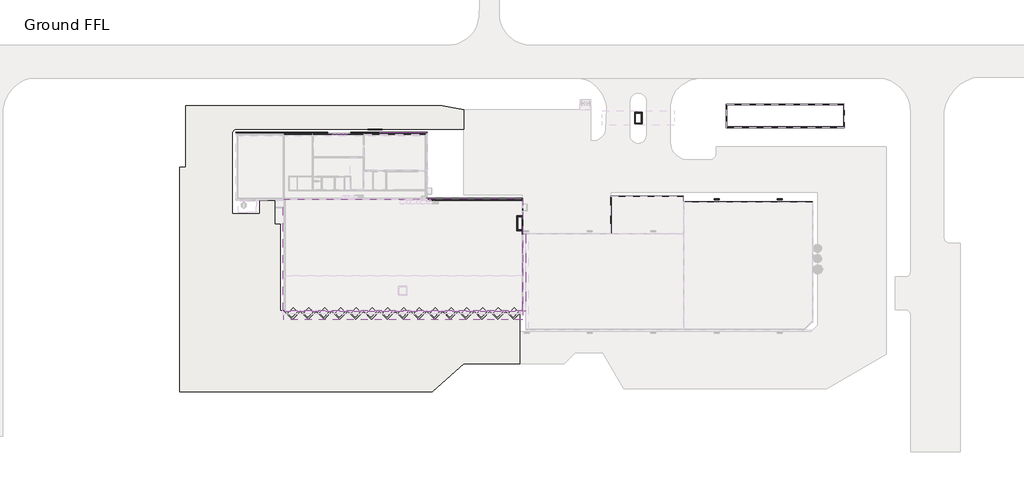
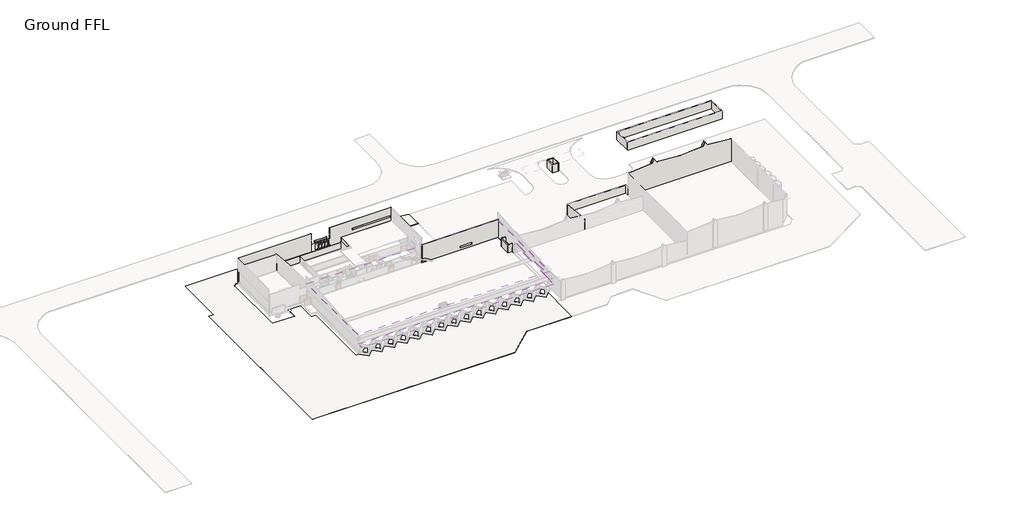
# One storey, part 5 of 7: 23 walls, 18 members, 6 plates, 3 roofs, 2 slabs, 1 door.
"""IFC4 building model written with IfcOpenShell, lengths in millimetres."""

from ifc_helpers import new_model, si_unit, point, frame, frame_2d, origin, place, context, project, spatial, polyline, circle_curve, trimmed, segment, composite_curve, outline, extrude, faceted_brep, transform, mapped, element, save
from components import m_single_flush_0813_x_2030mm_4a34e6f7, rectangular_mullion_50_x_150mm_0d2ae8be, rectangular_mullion_50_x_150mm_18613413, rectangular_mullion_50_x_150mm_3009440c, rectangular_mullion_50_x_150mm_8154ebc9, rectangular_mullion_50_x_150mm_1dcfd439, rectangular_mullion_50_x_150mm_17927dfe, rectangular_mullion_50_x_150mm_7ee202ef, rectangular_mullion_50_x_150mm_3a6771bd, system_panel_glazed_73dfcaf4, system_panel_glazed_c10e7662, system_panel_glazed_0650afbd, system_panel_glazed_fd84f461

model = new_model("IFC4")

# Units and contexts
model_context = context("Model", 3, world=origin())
ifc_project = project(units=[si_unit("LENGTHUNIT", "METRE", prefix="MILLI")], contexts=[model_context])

# Site, building, storey
site = spatial("IfcSite", under=ifc_project)
building = spatial("IfcBuilding", under=site)
storey = spatial("IfcBuildingStorey", under=building, Name="Ground FFL", Elevation=44170.0)

# Door
placement = place(None, origin())
m_single_flush_0813_x_2030mm_shape = m_single_flush_0813_x_2030mm_4a34e6f7(model_context)
element("IfcDoor", 1, ObjectType="M_Single-Flush : 813 x 2030mm", at=placement, inside=storey, context=model_context, shape_type="MappedRepresentation", body=[
    mapped(m_single_flush_0813_x_2030mm_shape, transform((-44649.0423298, 7861.4058517, 44170.0), x_axis=(0.0, -1.0, 0.0), y_axis=(1.0, 0.0, 0.0), z_axis=(0.0, 0.0, 1.0))),
])

# Members
rectangular_mullion_50_x_150mm_shape = rectangular_mullion_50_x_150mm_0d2ae8be(model_context)
element("IfcMember", 2, ObjectType="Rectangular Mullion : 50 x 150mm", at=placement, inside=storey, context=model_context, shape_type="MappedRepresentation", body=[
    mapped(rectangular_mullion_50_x_150mm_shape, transform((-112502.5092007, 36380.969902, 50970.0), x_axis=(0.0, 0.0, 1.0), y_axis=(0.0, 1.0, 0.0), z_axis=(-1.0, 0.0, 0.0))),
])
element("IfcMember", 3, ObjectType="Rectangular Mullion : 50 x 150mm", at=placement, inside=storey, context=model_context, shape_type="MappedRepresentation", body=[
    mapped(rectangular_mullion_50_x_150mm_shape, transform((-111072.6905728, 36380.969902, 48170.0), x_axis=(0.0, 0.0, -1.0), y_axis=(0.0, 1.0, 0.0), z_axis=(1.0, 0.0, 0.0))),
])
element("IfcMember", 4, ObjectType="Rectangular Mullion : 50 x 150mm", at=placement, inside=storey, context=model_context, shape_type="MappedRepresentation", body=[
    mapped(rectangular_mullion_50_x_150mm_shape, transform((-115562.1464558, 36380.969902, 48170.0), x_axis=(0.0, 0.0, -1.0), y_axis=(0.0, 1.0, 0.0), z_axis=(1.0, 0.0, 0.0))),
])
rectangular_mullion_50_x_150mm_2_shape = rectangular_mullion_50_x_150mm_18613413(model_context)
element("IfcMember", 5, ObjectType="Rectangular Mullion : 50 x 150mm", at=placement, inside=storey, context=model_context, shape_type="MappedRepresentation", body=[
    mapped(rectangular_mullion_50_x_150mm_2_shape, transform((-114007.3278282, 36380.969902, 50970.0), x_axis=(0.0, 0.0, 1.0), y_axis=(0.0, 1.0, 0.0), z_axis=(-1.0, 0.0, 0.0))),
])
element("IfcMember", 6, ObjectType="Rectangular Mullion : 50 x 150mm", at=placement, inside=storey, context=model_context, shape_type="MappedRepresentation", body=[
    mapped(rectangular_mullion_50_x_150mm_2_shape, transform((-115512.1464558, 36380.969902, 50970.0), x_axis=(0.0, 0.0, 1.0), y_axis=(0.0, 1.0, 0.0), z_axis=(-1.0, 0.0, 0.0))),
])
element("IfcMember", 7, ObjectType="Rectangular Mullion : 50 x 150mm", at=placement, inside=storey, context=model_context, shape_type="MappedRepresentation", body=[
    mapped(rectangular_mullion_50_x_150mm_2_shape, transform((-112552.5092007, 36380.969902, 48170.0), x_axis=(0.0, 0.0, -1.0), y_axis=(0.0, 1.0, 0.0), z_axis=(1.0, 0.0, 0.0))),
])
element("IfcMember", 8, ObjectType="Rectangular Mullion : 50 x 150mm", at=placement, inside=storey, context=model_context, shape_type="MappedRepresentation", body=[
    mapped(rectangular_mullion_50_x_150mm_2_shape, transform((-114057.3278282, 36380.969902, 48170.0), x_axis=(0.0, 0.0, -1.0), y_axis=(0.0, 1.0, 0.0), z_axis=(1.0, 0.0, 0.0))),
])
rectangular_mullion_50_x_150mm_3_shape = rectangular_mullion_50_x_150mm_3009440c(model_context)
element("IfcMember", 9, ObjectType="Rectangular Mullion : 50 x 150mm", at=placement, inside=storey, context=model_context, shape_type="MappedRepresentation", body=[
    mapped(rectangular_mullion_50_x_150mm_3_shape, transform((-112502.5092007, 36380.969902, 50390.0), x_axis=(0.0, 0.0, 1.0), y_axis=(0.0, 1.0, 0.0), z_axis=(-1.0, 0.0, 0.0))),
])
rectangular_mullion_50_x_150mm_4_shape = rectangular_mullion_50_x_150mm_8154ebc9(model_context)
element("IfcMember", 10, ObjectType="Rectangular Mullion : 50 x 150mm", at=placement, inside=storey, context=model_context, shape_type="MappedRepresentation", body=[
    mapped(rectangular_mullion_50_x_150mm_4_shape, transform((-114007.3278282, 36380.969902, 50390.0), x_axis=(0.0, 0.0, 1.0), y_axis=(0.0, 1.0, 0.0), z_axis=(-1.0, 0.0, 0.0))),
])
element("IfcMember", 11, ObjectType="Rectangular Mullion : 50 x 150mm", at=placement, inside=storey, context=model_context, shape_type="MappedRepresentation", body=[
    mapped(rectangular_mullion_50_x_150mm_4_shape, transform((-115512.1464558, 36380.969902, 50390.0), x_axis=(0.0, 0.0, 1.0), y_axis=(0.0, 1.0, 0.0), z_axis=(-1.0, 0.0, 0.0))),
])
rectangular_mullion_50_x_150mm_5_shape = rectangular_mullion_50_x_150mm_1dcfd439(model_context)
element("IfcMember", 12, ObjectType="Rectangular Mullion : 50 x 150mm", at=placement, inside=storey, context=model_context, shape_type="MappedRepresentation", body=[
    mapped(rectangular_mullion_50_x_150mm_5_shape, transform((-112527.5092007, 36380.969902, 48170.0), x_axis=(-1.0, 0.0, 0.0), y_axis=(0.0, 1.0, 0.0), z_axis=(0.0, 0.0, -1.0))),
])
element("IfcMember", 13, ObjectType="Rectangular Mullion : 50 x 150mm", at=placement, inside=storey, context=model_context, shape_type="MappedRepresentation", body=[
    mapped(rectangular_mullion_50_x_150mm_5_shape, transform((-114032.3278282, 36380.969902, 48170.0), x_axis=(-1.0, 0.0, 0.0), y_axis=(0.0, 1.0, 0.0), z_axis=(0.0, 0.0, -1.0))),
])
element("IfcMember", 14, ObjectType="Rectangular Mullion : 50 x 150mm", at=placement, inside=storey, context=model_context, shape_type="MappedRepresentation", body=[
    mapped(rectangular_mullion_50_x_150mm_5_shape, transform((-115537.1464558, 36380.969902, 48170.0), x_axis=(-1.0, 0.0, 0.0), y_axis=(0.0, 1.0, 0.0), z_axis=(0.0, 0.0, -1.0))),
])
rectangular_mullion_50_x_150mm_6_shape = rectangular_mullion_50_x_150mm_17927dfe(model_context)
element("IfcMember", 15, ObjectType="Rectangular Mullion : 50 x 150mm", at=placement, inside=storey, context=model_context, shape_type="MappedRepresentation", body=[
    mapped(rectangular_mullion_50_x_150mm_6_shape, transform((-112527.5092007, 36380.969902, 50390.0), x_axis=(-1.0, 0.0, 0.0), y_axis=(0.0, 1.0, 0.0), z_axis=(0.0, 0.0, -1.0))),
])
element("IfcMember", 16, ObjectType="Rectangular Mullion : 50 x 150mm", at=placement, inside=storey, context=model_context, shape_type="MappedRepresentation", body=[
    mapped(rectangular_mullion_50_x_150mm_6_shape, transform((-114032.3278282, 36380.969902, 50390.0), x_axis=(-1.0, 0.0, 0.0), y_axis=(0.0, 1.0, 0.0), z_axis=(0.0, 0.0, -1.0))),
])
element("IfcMember", 17, ObjectType="Rectangular Mullion : 50 x 150mm", at=placement, inside=storey, context=model_context, shape_type="MappedRepresentation", body=[
    mapped(rectangular_mullion_50_x_150mm_6_shape, transform((-115537.1464558, 36380.969902, 50390.0), x_axis=(-1.0, 0.0, 0.0), y_axis=(0.0, 1.0, 0.0), z_axis=(0.0, 0.0, -1.0))),
])
rectangular_mullion_50_x_150mm_7_shape = rectangular_mullion_50_x_150mm_7ee202ef(model_context)
element("IfcMember", 18, ObjectType="Rectangular Mullion : 50 x 150mm", at=placement, inside=storey, context=model_context, shape_type="MappedRepresentation", body=[
    mapped(rectangular_mullion_50_x_150mm_7_shape, transform((-111022.6905728, 36380.969902, 50970.0), x_axis=(1.0, 0.0, 0.0), y_axis=(0.0, 1.0, 0.0), z_axis=(0.0, 0.0, 1.0))),
])
rectangular_mullion_50_x_150mm_8_shape = rectangular_mullion_50_x_150mm_3a6771bd(model_context)
element("IfcMember", 19, ObjectType="Rectangular Mullion : 50 x 150mm", at=placement, inside=storey, context=model_context, shape_type="MappedRepresentation", body=[
    mapped(rectangular_mullion_50_x_150mm_8_shape, transform((-111022.6905728, 36380.969902, 50390.0), x_axis=(1.0, 0.0, 0.0), y_axis=(0.0, 1.0, 0.0), z_axis=(0.0, 0.0, 1.0))),
])

# Plates
system_panel_glazed_shape = system_panel_glazed_73dfcaf4(model_context)
element("IfcPlate", 20, ObjectType="System Panel : Glazed", at=placement, inside=storey, context=model_context, shape_type="MappedRepresentation", body=[
    mapped(system_panel_glazed_shape, transform((-111787.5998867, 36380.969902, 48220.0), x_axis=(-1.0, 0.0, 0.0), y_axis=(0.0, -1.0, 0.0), z_axis=(0.0, 0.0, 1.0))),
])
system_panel_glazed_2_shape = system_panel_glazed_c10e7662(model_context)
element("IfcPlate", 21, ObjectType="System Panel : Glazed", at=placement, inside=storey, context=model_context, shape_type="MappedRepresentation", body=[
    mapped(system_panel_glazed_2_shape, transform((-113279.9185144, 36380.969902, 48220.0), x_axis=(-1.0, 0.0, 0.0), y_axis=(0.0, -1.0, 0.0), z_axis=(0.0, 0.0, 1.0))),
])
element("IfcPlate", 22, ObjectType="System Panel : Glazed", at=placement, inside=storey, context=model_context, shape_type="MappedRepresentation", body=[
    mapped(system_panel_glazed_2_shape, transform((-114784.737142, 36380.969902, 48220.0), x_axis=(-1.0, 0.0, 0.0), y_axis=(0.0, -1.0, 0.0), z_axis=(0.0, 0.0, 1.0))),
])
system_panel_glazed_3_shape = system_panel_glazed_0650afbd(model_context)
element("IfcPlate", 23, ObjectType="System Panel : Glazed", at=placement, inside=storey, context=model_context, shape_type="MappedRepresentation", body=[
    mapped(system_panel_glazed_3_shape, transform((-111787.5998867, 36380.969902, 50415.0), x_axis=(-1.0, 0.0, 0.0), y_axis=(0.0, -1.0, 0.0), z_axis=(0.0, 0.0, 1.0))),
])
system_panel_glazed_4_shape = system_panel_glazed_fd84f461(model_context)
element("IfcPlate", 24, ObjectType="System Panel : Glazed", at=placement, inside=storey, context=model_context, shape_type="MappedRepresentation", body=[
    mapped(system_panel_glazed_4_shape, transform((-113279.9185144, 36380.969902, 50415.0), x_axis=(-1.0, 0.0, 0.0), y_axis=(0.0, -1.0, 0.0), z_axis=(0.0, 0.0, 1.0))),
])
element("IfcPlate", 25, ObjectType="System Panel : Glazed", at=placement, inside=storey, context=model_context, shape_type="MappedRepresentation", body=[
    mapped(system_panel_glazed_4_shape, transform((-114784.737142, 36380.969902, 50415.0), x_axis=(-1.0, 0.0, 0.0), y_axis=(0.0, -1.0, 0.0), z_axis=(0.0, 0.0, 1.0))),
])

# Roofs
element("IfcRoof", 26, ObjectType="Isopanel 100", at=placement, inside=storey, context=model_context, shape_type="SweptSolid", body=[
    extrude(outline(polyline([(-33901.740321, 48294.4727997), (-30641.740321, 48465.3221602), (-30641.740321, 48365.1849256), (-33901.740321, 48194.3355651), (-33901.740321, 48294.4727997)])), frame((-135300.5917799, 0.0, 0.0), z_axis=(1.0, 0.0, 0.0), x_axis=(0.0, 1.0, 0.0)), (0.0, 0.0, 1.0), 90551.5494501),
])
element("IfcRoof", 27, ObjectType="50", at=placement, inside=storey, context=model_context, shape_type="SweptSolid", body=[
    extrude(outline(polyline([(-30621.740321, 48650.7727047), (-15971.5524704, 49932.4980602), (-1321.3646197, 48650.7727047), (-1321.3646197, 48600.5817128), (-15971.5524704, 49882.3070683), (-30621.740321, 48600.5817128), (-30621.740321, 48650.7727047)])), frame((-44599.0423298, 0.0, 0.0), z_axis=(1.0, 0.0, 0.0), x_axis=(0.0, 1.0, 0.0)), (0.0, 0.0, 1.0), 1086.5070164),
])
element("IfcRoof", 28, ObjectType="50", at=placement, inside=storey, context=model_context, shape_type="Brep", body=[
    faceted_brep([(-80781.5917799, 12123.5196318, 56358.2824731), (-44749.0423298, 12123.5196318, 56358.2824731), (-44749.0423298, -30547.626541, 52625.0409233), (-135438.5917799, -30547.626541, 52625.0409233), (-135438.5917799, 11785.5196318, 56328.7113048), (-80781.5917799, 11785.5196318, 56328.7113048), (-44749.0423298, 12123.5196318, 56408.4734649), (-80781.5917799, 12123.5196318, 56408.4734649), (-80781.5917799, 11785.5196318, 56378.9022967), (-135438.5917799, 11785.5196318, 56378.9022967), (-135438.5917799, -30547.626541, 52675.2319152), (-44749.0423298, -30547.626541, 52675.2319152)], [[[0, 1, 2, 3, 4, 5]], [[6, 7, 8, 9, 10, 11]], [[2, 11, 10, 3]], [[7, 6, 1, 0]], [[6, 11, 2, 1]], [[10, 9, 4, 3]], [[8, 7, 0, 5]], [[9, 8, 5, 4]]]),
])

# Slabs
element("IfcSlab", 29, ObjectType="tar", at=placement, inside=storey, context=model_context, shape_type="SweptSolid", body=[
    extrude(outline(composite_curve([segment(polyline([(-172400.4088827, 23796.909674), (-172400.4088827, 47266.2777512), (-75143.3700908, 47266.2777512), (-67100.5917799, 45651.9991708), (-67100.5917799, 38266.2777512), (-153558.3515083, 38266.2777512)]), True, "CONTINUOUS"), segment(trimmed(circle_curve(frame_2d((-152954.5809995, 36521.0091802)), 1846.7542371), [point((-153558.3515083, 38266.2777512))], [point((-154800.5917799, 36573.4058517))], True, "CARTESIAN"), True, "CONTINUOUS"), segment(polyline([(-154800.5917799, 36573.4058517), (-154800.5917799, 6248.2777512), (-144258.459765, 6248.2777512), (-144258.459765, 11448.2777512), (-138445.7798584, 11448.2777512), (-138445.7798584, 2475.2225353), (-136500.5917799, 2475.2225353), (-136500.5917799, -30556.740321), (-135043.8019318, -30556.740321), (-131902.6082972, -33652.2497332), (-128931.6842467, -30681.6911235), (-125917.2850165, -33652.2497332), (-122946.360966, -30681.6911235), (-119931.9617358, -33652.2497332), (-116961.0376853, -30681.6911235), (-113946.6384551, -33652.2497332), (-110975.7144046, -30681.6911235), (-107961.3151745, -33652.2497332), (-104990.391124, -30681.6911235), (-101975.9918938, -33652.2497332), (-99005.0678433, -30681.6911235), (-95990.6686131, -33652.2497332), (-93019.7445626, -30681.6911235), (-90005.3453324, -33652.2497332), (-87034.4212819, -30681.6911235), (-84020.0220517, -33652.2497332), (-81049.0980012, -30681.6911235), (-78034.6987711, -33652.2497332), (-75063.7747206, -30681.6911235), (-72049.3754904, -33652.2497332), (-69078.4514399, -30681.6911235), (-66064.0522097, -33652.2497332), (-63093.1281592, -30681.6911235), (-60078.728929, -33652.2497332), (-57107.8048785, -30681.6911235), (-54093.4056484, -33652.2497332), (-51100.5591708, -30659.7686967), (-48108.1107414, -33652.5825632), (-45845.7422682, -31390.4903361), (-45845.7422682, -50670.3268009), (-67045.7856046, -50670.3268009), (-78993.9393124, -61246.9875007), (-174738.4088827, -61246.9875007), (-174738.4088827, 23796.909674), (-172400.4088827, 23796.909674)]), True, "CONTINUOUS")], self_intersect=False)), frame((0.0, 0.0, 42660.0), z_axis=(0.0, 0.0, 1.0), x_axis=(1.0, 0.0, 0.0)), (0.0, 0.0, 1.0), 150.0),
])
element("IfcSlab", 30, ObjectType="Counter", at=placement, inside=storey, context=model_context, shape_type="SweptSolid", body=[
    extrude(outline(polyline([(-130132.6943152, -30967.337971), (-132311.3168194, -33145.9604752), (-133856.3778478, -31600.8994468), (-131677.7553436, -29422.2769426), (-130132.6943152, -30967.337971)])), frame((0.0, 0.0, 44120.0), z_axis=(0.0, 0.0, 1.0), x_axis=(1.0, 0.0, 0.0)), (0.0, 0.0, 1.0), 50.0),
    extrude(outline(polyline([(-124147.3710345, -30967.337971), (-126325.9935387, -33145.9604752), (-127871.0545671, -31600.8994468), (-125692.4320629, -29422.2769426), (-124147.3710345, -30967.337971)])), frame((0.0, 0.0, 44120.0), z_axis=(0.0, 0.0, 1.0), x_axis=(1.0, 0.0, 0.0)), (0.0, 0.0, 1.0), 50.0),
    extrude(outline(polyline([(-118162.0477538, -30967.337971), (-120340.670258, -33145.9604752), (-121885.7312865, -31600.8994468), (-119707.1087823, -29422.2769426), (-118162.0477538, -30967.337971)])), frame((0.0, 0.0, 44120.0), z_axis=(0.0, 0.0, 1.0), x_axis=(1.0, 0.0, 0.0)), (0.0, 0.0, 1.0), 50.0),
    extrude(outline(polyline([(-112176.7244731, -30967.337971), (-114355.3469773, -33145.9604752), (-115900.4080058, -31600.8994468), (-113721.7855016, -29422.2769426), (-112176.7244731, -30967.337971)])), frame((0.0, 0.0, 44120.0), z_axis=(0.0, 0.0, 1.0), x_axis=(1.0, 0.0, 0.0)), (0.0, 0.0, 1.0), 50.0),
    extrude(outline(polyline([(-106191.4011925, -30967.337971), (-108370.0236967, -33145.9604752), (-109915.0847251, -31600.8994468), (-107736.4622209, -29422.2769426), (-106191.4011925, -30967.337971)])), frame((0.0, 0.0, 44120.0), z_axis=(0.0, 0.0, 1.0), x_axis=(1.0, 0.0, 0.0)), (0.0, 0.0, 1.0), 50.0),
    extrude(outline(polyline([(-100206.0779118, -30967.337971), (-102384.700416, -33145.9604752), (-103929.7614444, -31600.8994468), (-101751.1389402, -29422.2769426), (-100206.0779118, -30967.337971)])), frame((0.0, 0.0, 44120.0), z_axis=(0.0, 0.0, 1.0), x_axis=(1.0, 0.0, 0.0)), (0.0, 0.0, 1.0), 50.0),
    extrude(outline(polyline([(-94220.7546311, -30967.337971), (-96399.3771353, -33145.9604752), (-97944.4381638, -31600.8994468), (-95765.8156596, -29422.2769426), (-94220.7546311, -30967.337971)])), frame((0.0, 0.0, 44120.0), z_axis=(0.0, 0.0, 1.0), x_axis=(1.0, 0.0, 0.0)), (0.0, 0.0, 1.0), 50.0),
    extrude(outline(polyline([(-88235.4313504, -30967.337971), (-90414.0538546, -33145.9604752), (-91959.1148831, -31600.8994468), (-89780.4923789, -29422.2769426), (-88235.4313504, -30967.337971)])), frame((0.0, 0.0, 44120.0), z_axis=(0.0, 0.0, 1.0), x_axis=(1.0, 0.0, 0.0)), (0.0, 0.0, 1.0), 50.0),
    extrude(outline(polyline([(-82250.1080697, -30967.337971), (-84428.7305739, -33145.9604752), (-85973.7916024, -31600.8994468), (-83795.1690982, -29422.2769426), (-82250.1080697, -30967.337971)])), frame((0.0, 0.0, 44120.0), z_axis=(0.0, 0.0, 1.0), x_axis=(1.0, 0.0, 0.0)), (0.0, 0.0, 1.0), 50.0),
    extrude(outline(polyline([(-76264.7847891, -30967.337971), (-78443.4072933, -33145.9604752), (-79988.4683217, -31600.8994468), (-77809.8458175, -29422.2769426), (-76264.7847891, -30967.337971)])), frame((0.0, 0.0, 44120.0), z_axis=(0.0, 0.0, 1.0), x_axis=(1.0, 0.0, 0.0)), (0.0, 0.0, 1.0), 50.0),
    extrude(outline(polyline([(-70279.4615084, -30967.337971), (-72458.0840126, -33145.9604752), (-74003.145041, -31600.8994468), (-71824.5225368, -29422.2769426), (-70279.4615084, -30967.337971)])), frame((0.0, 0.0, 44120.0), z_axis=(0.0, 0.0, 1.0), x_axis=(1.0, 0.0, 0.0)), (0.0, 0.0, 1.0), 50.0),
    extrude(outline(polyline([(-64294.1382277, -30967.337971), (-66472.7607319, -33145.9604752), (-68017.8217604, -31600.8994468), (-65839.1992562, -29422.2769426), (-64294.1382277, -30967.337971)])), frame((0.0, 0.0, 44120.0), z_axis=(0.0, 0.0, 1.0), x_axis=(1.0, 0.0, 0.0)), (0.0, 0.0, 1.0), 50.0),
    extrude(outline(polyline([(-58308.814947, -30967.337971), (-60487.4374512, -33145.9604752), (-62032.4984797, -31600.8994468), (-59853.8759755, -29422.2769426), (-58308.814947, -30967.337971)])), frame((0.0, 0.0, 44120.0), z_axis=(0.0, 0.0, 1.0), x_axis=(1.0, 0.0, 0.0)), (0.0, 0.0, 1.0), 50.0),
    extrude(outline(polyline([(-52323.4916664, -30967.337971), (-54502.1141705, -33145.9604752), (-56047.175199, -31600.8994468), (-53868.5526948, -29422.2769426), (-52323.4916664, -30967.337971)])), frame((0.0, 0.0, 44120.0), z_axis=(0.0, 0.0, 1.0), x_axis=(1.0, 0.0, 0.0)), (0.0, 0.0, 1.0), 50.0),
    extrude(outline(polyline([(-46338.1683857, -30967.337971), (-48516.7908899, -33145.9604752), (-50061.8519183, -31600.8994468), (-47883.2294141, -29422.2769426), (-46338.1683857, -30967.337971)])), frame((0.0, 0.0, 44120.0), z_axis=(0.0, 0.0, 1.0), x_axis=(1.0, 0.0, 0.0)), (0.0, 0.0, 1.0), 50.0),
])

# Walls
element("IfcWall", 31, ObjectType="300 bund wall", at=placement, inside=storey, context=model_context, shape_type="Brep", body=[
    faceted_brep([(-44899.0423298, 12086.2777512, 42669.4970536), (-44899.0423298, -1493.7222488, 42669.4970536), (-44899.0423298, -1493.7222488, 44170.0), (-44899.0423298, -1493.7222488, 44181.9525163), (-44899.0423298, -183.3646197, 44181.9525163), (-44899.0423298, -183.3646197, 46190.0), (-44899.0423298, -98.3646197, 46190.0), (-44899.0423298, 131.6353803, 46190.0), (-44899.0423298, 5436.2777512, 46190.0), (-44899.0423298, 5436.2777512, 44181.9525163), (-44899.0423298, 7454.9058517, 44181.9525163), (-44899.0423298, 7454.9058517, 44170.0), (-44899.0423298, 8267.9058517, 44170.0), (-44899.0423298, 8267.9058517, 44181.9525163), (-44899.0423298, 12086.2777512, 44181.9525163), (-44899.0423298, 12086.2777512, 44170.0), (-44899.0423298, 12086.2777512, 42670.0), (-44899.0423298, 2031.6353803, 42810.0), (-44899.0423298, 2731.6353803, 42810.0), (-44899.0423298, 2731.6353803, 44840.0), (-44899.0423298, 2031.6353803, 44840.0), (-44599.0423298, -1493.7222488, 42669.4970536), (-44599.0423298, 12086.2777512, 42669.4970536), (-44599.0423298, 12086.2777512, 44181.9525163), (-44599.0423298, 8267.9058517, 44181.9525163), (-44599.0423298, 8267.9058517, 44170.0), (-44599.0423298, 7454.9058517, 44170.0), (-44599.0423298, 7454.9058517, 44181.9525163), (-44599.0423298, 5436.2777512, 44181.9525163), (-44599.0423298, 5436.2777512, 46190.0), (-44599.0423298, -183.3646197, 46190.0), (-44599.0423298, -183.3646197, 44181.9525163), (-44599.0423298, -1493.7222488, 44181.9525163), (-44599.0423298, -1493.7222488, 44170.0), (-44599.0423298, 2731.6353803, 42810.0), (-44599.0423298, 2031.6353803, 42810.0), (-44599.0423298, 2031.6353803, 44840.0), (-44599.0423298, 2731.6353803, 44840.0), (-44699.0423298, -183.3646197, 46190.0), (-44699.0423298, 5436.2777512, 46190.0), (-44699.0423298, 5436.2777512, 44181.9525163)], [[[0, 1, 2, 3, 4, 5, 6, 7, 8, 9, 10, 11, 12, 13, 14, 15, 16], [17, 18, 19, 20]], [[21, 22, 23, 24, 25, 26, 27, 28, 29, 30, 31, 32, 33], [34, 35, 36, 37]], [[0, 16, 15, 14, 23, 22]], [[25, 12, 11, 26]], [[26, 11, 10, 27]], [[12, 25, 24, 13]], [[34, 18, 17, 35]], [[35, 17, 20, 36]], [[18, 34, 37, 19]], [[1, 0, 22, 21]], [[3, 2, 1, 21, 33, 32]], [[4, 3, 32, 31]], [[5, 4, 31, 30, 38]], [[8, 7, 6, 5, 38, 30, 29, 39]], [[23, 14, 13, 24]], [[10, 9, 40, 28, 27]], [[19, 37, 36, 20]], [[9, 8, 39, 29, 28, 40]]]),
])
element("IfcWall", 32, ObjectType="300 bund wall", at=placement, inside=storey, context=model_context, shape_type="SweptSolid", body=[
    extrude(outline(polyline([(-80950.5917799, 12086.2777512), (-44899.0423298, 12086.2777512), (-44899.0423298, 11786.2777512), (-80950.5917799, 11786.2777512), (-80950.5917799, 12086.2777512)])), frame((0.0, 0.0, 42670.0), z_axis=(0.0, 0.0, 1.0), x_axis=(1.0, 0.0, 0.0)), (0.0, 0.0, 1.0), 1500.0),
])
element("IfcWall", 33, ObjectType="Isopanel", at=placement, inside=storey, context=model_context, shape_type="Brep", body=[
    faceted_brep([(-80889.0423298, 11388.2777512, 44170.0), (-44699.0423298, 11388.2777512, 44170.0), (-44699.0423298, 11388.2777512, 53270.0), (-44637.0423298, 11388.2777512, 53270.0), (-44637.0423298, 11388.2777512, 53310.0), (-80889.0423298, 11388.2777512, 53310.0), (-62740.5917799, 11388.2777512, 46170.0), (-57320.5917799, 11388.2777512, 46170.0), (-57320.5917799, 11388.2777512, 45270.0), (-62740.5917799, 11388.2777512, 45270.0), (-80889.0423298, 11488.2777512, 44170.0), (-80889.0423298, 11488.2777512, 53310.0), (-44637.0423298, 11488.2777512, 53310.0), (-44637.0423298, 11488.2777512, 53270.0), (-44699.0423298, 11488.2777512, 53270.0), (-44699.0423298, 11488.2777512, 44181.9525163), (-44699.0423298, 11488.2777512, 44170.0), (-62740.5917799, 11488.2777512, 46170.0), (-62740.5917799, 11488.2777512, 45270.0), (-57320.5917799, 11488.2777512, 45270.0), (-57320.5917799, 11488.2777512, 46170.0)], [[[0, 1, 2, 3, 4, 5], [6, 7, 8, 9]], [[10, 11, 12, 13, 14, 15, 16], [17, 18, 19, 20]], [[1, 0, 10, 16]], [[5, 4, 12, 11]], [[0, 5, 11, 10]], [[7, 6, 17, 20]], [[8, 7, 20, 19]], [[9, 8, 19, 18]], [[6, 9, 18, 17]], [[13, 3, 2, 14]], [[1, 16, 15, 14, 2]], [[4, 3, 13, 12]]]),
])
element("IfcWall", 34, ObjectType="Isopanel", at=placement, inside=storey, context=model_context, shape_type="Brep", body=[
    faceted_brep([(-81347.9372768, 36355.969902, 50120.0), (-104751.7924744, 36355.969902, 50120.0), (-104751.7924744, 36355.969902, 47720.0), (-135348.6902477, 36355.969902, 47720.0), (-135348.6902477, 36355.969902, 44170.0), (-135347.9372768, 36355.969902, 44170.0), (-135247.9372768, 36355.969902, 44170.0), (-124347.9372768, 36355.969902, 44170.0), (-124247.9372768, 36355.969902, 44170.0), (-104947.9372768, 36355.969902, 44170.0), (-104847.9372768, 36355.969902, 44170.0), (-81347.9372768, 36355.969902, 44170.0), (-81347.9372768, 36355.969902, 44670.0), (-81347.9372768, 36455.969902, 50120.0), (-81347.9372768, 36455.969902, 44170.0), (-135348.6902477, 36455.969902, 44170.0), (-135348.6902477, 36455.969902, 47720.0), (-135247.9372768, 36455.969902, 47720.0), (-104751.7924744, 36455.969902, 47720.0), (-104751.7924744, 36455.969902, 50120.0), (-135348.6902477, 36405.969902, 47720.0), (-135348.6902477, 36405.969902, 44170.0)], [[[0, 1, 2, 3, 4, 5, 6, 7, 8, 9, 10, 11, 12]], [[13, 14, 15, 16, 17, 18, 19]], [[1, 0, 13, 19]], [[2, 1, 19, 18]], [[3, 2, 18, 17, 16, 20]], [[11, 10, 9, 8, 7, 6, 5, 4, 21, 15, 14]], [[4, 3, 20, 16, 15, 21]], [[0, 12, 11, 14, 13]]]),
])
element("IfcWall", 35, ObjectType="Cladding 2", at=placement, inside=storey, context=model_context, shape_type="SweptSolid", body=[
    extrude(outline(polyline([(10832.6738606, 44170.0), (10832.6738606, 48398.4928881), (12870.6738606, 48220.1909919), (12870.6738606, 44170.0), (10832.6738606, 44170.0)])), frame((16410.8578757, 0.0, 0.0), z_axis=(1.0, 0.0, 0.0), x_axis=(0.0, 1.0, 0.0)), (0.0, 0.0, 1.0), 38.0),
])
element("IfcWall", 36, ObjectType="Cladding 2", at=placement, inside=storey, context=model_context, shape_type="Brep", body=[
    faceted_brep([(16410.8578757, 12870.6738606, 42669.4970536), (-11218.0540881, 12870.6738606, 42669.4970536), (-11218.0540881, 12870.6738606, 48220.1909919), (16410.8578757, 12870.6738606, 48220.1909919), (16410.8578757, 12870.6738606, 44170.0), (16410.8578757, 12832.6738606, 42669.4970536), (16410.8578757, 12832.6738606, 48220.1909919), (-11218.0540881, 12832.6738606, 48220.1909919), (-11218.0540881, 12832.6738606, 42669.4970536)], [[[0, 1, 2, 3, 4]], [[5, 6, 7, 8]], [[0, 4, 3, 6, 5]], [[2, 1, 8, 7]], [[1, 0, 5, 8]], [[3, 2, 7, 6]]]),
])
element("IfcWall", 37, ObjectType="Cladding 2", at=placement, inside=storey, context=model_context, shape_type="Brep", body=[
    faceted_brep([(-11218.0540881, 12832.6738606, 41553.4728544), (-11218.0540881, -1321.3646197, 41553.4728544), (-11218.0540881, -1321.3646197, 49461.8334712), (-11218.0540881, 12832.6738606, 48223.5155611), (-11218.0540881, 12832.6738606, 48220.1909919), (-11218.0540881, 12832.6738606, 42669.4970536), (-11180.0540881, 12832.6738606, 41553.4728544), (-11180.0540881, 12832.6738606, 48223.5155611), (-11180.0540881, -1321.3646197, 49461.8334712), (-11180.0540881, -1321.3646197, 41553.4728544)], [[[0, 1, 2, 3, 4, 5]], [[6, 7, 8, 9]], [[0, 5, 4, 3, 7, 6]], [[2, 1, 9, 8]], [[1, 0, 6, 9]], [[3, 2, 8, 7]]]),
])
element("IfcWall", 38, ObjectType="Cladding 3", at=placement, inside=storey, context=model_context, shape_type="Brep", body=[
    faceted_brep([(-80762.5917799, 37027.0854127, 56320.0), (-109917.8719448, 37027.0854127, 56320.0), (-109917.8719448, 37027.0854127, 51029.3579685), (-109967.8719448, 37027.0854127, 51029.3579685), (-109967.8719448, 37027.0854127, 48170.0), (-109917.8719448, 37027.0854127, 48170.0), (-109917.8719448, 37027.0854127, 44170.0), (-80800.5917799, 37027.0854127, 44170.0), (-80762.5917799, 37027.0854127, 44170.0), (-99086.8066426, 37027.0854127, 52370.0), (-81298.6902477, 37027.0854127, 52370.0), (-81298.6902477, 37027.0854127, 51570.0), (-99086.8066426, 37027.0854127, 51570.0), (-80762.5917799, 37065.0854127, 56320.0), (-80762.5917799, 37065.0854127, 44170.0), (-109917.8719448, 37065.0854127, 44170.0), (-109917.8719448, 37065.0854127, 48170.0), (-109967.8719448, 37065.0854127, 48170.0), (-109967.8719448, 37065.0854127, 51029.3579685), (-109917.8719448, 37065.0854127, 51029.3579685), (-109917.8719448, 37065.0854127, 56320.0), (-99086.8066426, 37065.0854127, 52370.0), (-99086.8066426, 37065.0854127, 51570.0), (-81298.6902477, 37065.0854127, 51570.0), (-81298.6902477, 37065.0854127, 52370.0), (-109917.8719448, 37028.2777512, 48170.0), (-109917.8719448, 37028.2777512, 44170.0), (-109917.8719448, 37028.2777512, 51029.3579685), (-109967.8719448, 37028.2777512, 51029.3579685), (-109967.8719448, 37028.2777512, 48170.0)], [[[0, 1, 2, 3, 4, 5, 6, 7, 8], [9, 10, 11, 12]], [[13, 14, 15, 16, 17, 18, 19, 20], [21, 22, 23, 24]], [[0, 8, 14, 13]], [[1, 0, 13, 20]], [[12, 11, 23, 22]], [[9, 12, 22, 21]], [[10, 9, 21, 24]], [[11, 10, 24, 23]], [[6, 5, 25, 16, 15, 26]], [[2, 1, 20, 19, 27]], [[4, 3, 28, 18, 17, 29]], [[8, 7, 6, 26, 15, 14]], [[4, 29, 17, 16, 25, 5]], [[2, 27, 19, 18, 28, 3]]]),
    faceted_brep([(-153476.6902477, 37027.0854127, 44170.0), (-153438.6902477, 37027.0854127, 44170.0), (-118610.400716, 37027.0854127, 44170.0), (-118610.400716, 37027.0854127, 56320.0), (-153476.6902477, 37027.0854127, 56320.0), (-153476.6902477, 37065.0854127, 44170.0), (-153476.6902477, 37065.0854127, 56320.0), (-118610.400716, 37065.0854127, 56320.0), (-118610.400716, 37065.0854127, 44170.0), (-118610.400716, 37028.2777512, 44170.0)], [[[0, 1, 2, 3, 4]], [[5, 6, 7, 8]], [[0, 4, 6, 5]], [[2, 1, 0, 5, 8, 9]], [[3, 2, 9, 8, 7]], [[4, 3, 7, 6]]]),
])
element("IfcWall", 39, ObjectType="Cladding dark", at=placement, inside=storey, context=model_context, shape_type="Brep", body=[
    faceted_brep([(65219.3004542, 10832.6738606, 44170.0), (16448.8578757, 10832.6738606, 44170.0), (16410.8578757, 10832.6738606, 44170.0), (16410.8578757, 10832.6738606, 48398.4928881), (16410.8578757, 10832.6738606, 55437.2013472), (27847.5391285, 10832.6738606, 56437.7813052), (28797.5391285, 10832.6738606, 58083.2295724), (29747.5391285, 10832.6738606, 56437.7813052), (40805.3002773, 10832.6738606, 55470.3525607), (51863.0614262, 10832.6738606, 56437.7813052), (52813.0614262, 10832.6738606, 58083.2295724), (53763.0614262, 10832.6738606, 56437.7813052), (65219.3004542, 10832.6738606, 55435.4902636), (65219.3004542, 10794.6738606, 44170.0), (65219.3004542, 10794.6738606, 55435.4902636), (53763.0614262, 10794.6738606, 56437.7813052), (52813.0614262, 10794.6738606, 58083.2295724), (51863.0614262, 10794.6738606, 56437.7813052), (40805.3002773, 10794.6738606, 55470.3525607), (29747.5391285, 10794.6738606, 56437.7813052), (28797.5391285, 10794.6738606, 58083.2295724), (27847.5391285, 10794.6738606, 56437.7813052), (16410.8578757, 10794.6738606, 55437.2013472), (16410.8578757, 10794.6738606, 44170.0), (16448.8578757, 10794.6738606, 44170.0)], [[[0, 1, 2, 3, 4, 5, 6, 7, 8, 9, 10, 11, 12]], [[13, 14, 15, 16, 17, 18, 19, 20, 21, 22, 23, 24]], [[2, 1, 0, 13, 24, 23]], [[0, 12, 14, 13]], [[5, 4, 22, 21]], [[6, 5, 21, 20]], [[7, 6, 20, 19]], [[8, 7, 19, 18]], [[9, 8, 18, 17]], [[10, 9, 17, 16]], [[11, 10, 16, 15]], [[12, 11, 15, 14]], [[2, 23, 22, 4, 3]]]),
])
element("IfcWall", 40, ObjectType="Orange", at=placement, inside=storey, context=model_context, shape_type="SweptSolid", body=[
    extrude(outline(polyline([(43054.2001228, -97830.3719448), (44085.2546296, -97830.3719448), (44747.5, -98897.8719448), (44747.5, -99827.8719448), (46255.0, -102257.8719448), (46255.0, -103187.8719448), (47762.5, -105617.8719448), (47762.5, -106547.8719448), (49270.0, -108977.8719448), (49270.0, -111117.8719448), (48170.0, -111117.8719448), (48170.0, -108866.7359259), (46712.5, -106517.3329408), (46712.5, -105587.3329408), (45205.0, -103157.3329408), (45205.0, -102227.3329408), (43697.5, -99797.3329408), (43697.5, -98867.3329408), (43054.2001228, -97830.3719448)])), frame((0.0, 38190.2777512, 0.0), z_axis=(0.0, 1.0, 0.0), x_axis=(0.0, 0.0, 1.0)), (0.0, 0.0, 1.0), 38.0),
])
element("IfcWall", 41, ObjectType="Orange wide", at=placement, inside=storey, context=model_context, shape_type="SweptSolid", body=[
    extrude(outline(polyline([(58083.2295724, 28797.5391285), (56437.7813052, 27847.5391285), (44170.0, 27847.5391285), (44170.0, 29747.5391285), (56437.7813052, 29747.5391285), (58083.2295724, 28797.5391285)])), frame((0.0, 11632.6738606, 0.0), z_axis=(0.0, 1.0, 0.0), x_axis=(0.0, 0.0, 1.0)), (0.0, 0.0, 1.0), 300.0),
    extrude(outline(polyline([(44170.0, 51863.0614262), (44170.0, 53763.0614262), (56437.7813052, 53763.0614262), (58083.2295724, 52813.0614262), (56437.7813052, 51863.0614262), (44170.0, 51863.0614262)])), frame((0.0, 11632.6738606, 0.0), z_axis=(0.0, 1.0, 0.0), x_axis=(0.0, 0.0, 1.0)), (0.0, 0.0, 1.0), 300.0),
])
element("IfcWall", 42, ObjectType="Translucent sheeting", at=placement, inside=storey, context=model_context, shape_type="Brep", body=[
    faceted_brep([(-81298.6902477, 37065.0854127, 51570.0), (-99086.8066426, 37065.0854127, 51570.0), (-99086.8066426, 37065.0854127, 52370.0), (-81298.6902477, 37065.0854127, 52370.0), (-81298.6902477, 37027.0854127, 51570.0), (-81298.6902477, 37027.0854127, 52370.0), (-99086.8066426, 37027.0854127, 52370.0), (-99086.8066426, 37027.0854127, 51570.0)], [[[0, 1, 2, 3]], [[4, 5, 6, 7]], [[1, 0, 4, 7]], [[2, 1, 7, 6]], [[3, 2, 6, 5]], [[0, 3, 5, 4]]]),
    faceted_brep([(-111201.8406927, 37065.0854127, 51570.0), (-117180.400716, 37065.0854127, 51570.0), (-117180.400716, 37065.0854127, 52370.0), (-111201.8406927, 37065.0854127, 52370.0), (-111201.8406927, 37027.0854127, 51570.0), (-111201.8406927, 37027.0854127, 52370.0), (-117180.400716, 37027.0854127, 52370.0), (-117180.400716, 37027.0854127, 51570.0), (-111201.8406927, 37028.2777512, 51570.0), (-117180.400716, 37028.2777512, 51570.0), (-117180.400716, 37028.2777512, 52370.0), (-111201.8406927, 37028.2777512, 52370.0)], [[[0, 1, 2, 3]], [[4, 5, 6, 7]], [[1, 0, 8, 4, 7, 9]], [[2, 1, 9, 7, 6, 10]], [[3, 2, 10, 6, 5, 11]], [[0, 3, 11, 5, 4, 8]]]),
])
element("IfcWall", 43, ObjectType="wall Brick 230", at=placement, inside=storey, context=model_context, shape_type="Brep", body=[
    faceted_brep([(-44899.0423298, 5436.2777512, 44170.0), (-46864.0423298, 5436.2777512, 44170.0), (-46864.0423298, 5436.2777512, 48170.0), (-44899.0423298, 5436.2777512, 48170.0), (-44899.0423298, 5436.2777512, 46190.0), (-44899.0423298, 5436.2777512, 44181.9525163), (-44899.0423298, 5206.2777512, 44170.0), (-44899.0423298, 5206.2777512, 48170.0), (-46634.0423298, 5206.2777512, 48170.0), (-46864.0423298, 5206.2777512, 48170.0), (-46864.0423298, 5206.2777512, 44170.0), (-46634.0423298, 5206.2777512, 44170.0)], [[[0, 1, 2, 3, 4, 5]], [[6, 7, 8, 9, 10, 11]], [[1, 0, 6, 11, 10]], [[3, 2, 9, 8, 7]], [[2, 1, 10, 9]], [[0, 5, 4, 3, 7, 6]]]),
])
element("IfcWall", 44, ObjectType="wall Brick 230", at=placement, inside=storey, context=model_context, shape_type="Brep", body=[
    faceted_brep([(-46864.0423298, 5206.2777512, 44170.0), (-46864.0423298, -98.3646197, 44170.0), (-46864.0423298, -98.3646197, 48170.0), (-46864.0423298, 5206.2777512, 48170.0), (-46634.0423298, 5206.2777512, 44170.0), (-46634.0423298, 5206.2777512, 48170.0), (-46634.0423298, 131.6353803, 48170.0), (-46634.0423298, -98.3646197, 48170.0), (-46634.0423298, -98.3646197, 44170.0), (-46634.0423298, 131.6353803, 44170.0)], [[[0, 1, 2, 3]], [[4, 5, 6, 7, 8, 9]], [[1, 0, 4, 9, 8]], [[3, 2, 7, 6, 5]], [[0, 3, 5, 4]], [[2, 1, 8, 7]]]),
])
element("IfcWall", 45, ObjectType="wall Brick 230", at=placement, inside=storey, context=model_context, shape_type="SweptSolid", body=[
    extrude(outline(polyline([(44170.0, -44899.0423298), (46190.0, -44899.0423298), (46190.0, -44699.0423298), (48170.0, -44699.0423298), (48170.0, -46634.0423298), (44170.0, -46634.0423298), (44170.0, -44899.0423298)])), frame((0.0, -98.3646197, 0.0), z_axis=(0.0, 1.0, 0.0), x_axis=(0.0, 0.0, 1.0)), (0.0, 0.0, 1.0), 230.0),
])
element("IfcWall", 46, ObjectType="wall Brick 270", at=placement, inside=storey, context=model_context, shape_type="Brep", body=[
    faceted_brep([(77280.565769, 39191.4460322, 44170.0), (77010.565769, 39191.4460322, 44170.0), (32750.565769, 39191.4460322, 44170.0), (32480.565769, 39191.4460322, 44170.0), (32480.565769, 39191.4460322, 48170.0), (32750.565769, 39191.4460322, 48170.0), (77010.565769, 39191.4460322, 48170.0), (77280.565769, 39191.4460322, 48170.0), (77280.565769, 38921.4460322, 44170.0), (77280.565769, 38921.4460322, 48170.0), (32480.565769, 38921.4460322, 48170.0), (32480.565769, 38921.4460322, 44170.0)], [[[0, 1, 2, 3, 4, 5, 6, 7]], [[8, 9, 10, 11]], [[3, 2, 1, 0, 8, 11]], [[7, 6, 5, 4, 10, 9]], [[4, 3, 11, 10]], [[0, 7, 9, 8]]]),
])
element("IfcWall", 47, ObjectType="wall Brick 270", at=placement, inside=storey, context=model_context, shape_type="Brep", body=[
    faceted_brep([(32750.565769, 39191.4460322, 44170.0), (32750.565769, 47551.4460322, 44170.0), (32750.565769, 47821.4460322, 44170.0), (32750.565769, 47821.4460322, 48170.0), (32750.565769, 47551.4460322, 48170.0), (32750.565769, 39191.4460322, 48170.0), (32480.565769, 39191.4460322, 44170.0), (32480.565769, 39191.4460322, 48170.0), (32480.565769, 47821.4460322, 48170.0), (32480.565769, 47821.4460322, 44170.0)], [[[0, 1, 2, 3, 4, 5]], [[6, 7, 8, 9]], [[2, 1, 0, 6, 9]], [[5, 4, 3, 8, 7]], [[0, 5, 7, 6]], [[3, 2, 9, 8]]]),
])
element("IfcWall", 48, ObjectType="wall Brick 270", at=placement, inside=storey, context=model_context, shape_type="Brep", body=[
    faceted_brep([(32750.565769, 47551.4460322, 44170.0), (77010.565769, 47551.4460322, 44170.0), (77280.565769, 47551.4460322, 44170.0), (77280.565769, 47551.4460322, 48170.0), (77010.565769, 47551.4460322, 48170.0), (32750.565769, 47551.4460322, 48170.0), (32750.565769, 47821.4460322, 44170.0), (32750.565769, 47821.4460322, 48170.0), (77280.565769, 47821.4460322, 48170.0), (77280.565769, 47821.4460322, 44170.0)], [[[0, 1, 2, 3, 4, 5]], [[6, 7, 8, 9]], [[2, 1, 0, 6, 9]], [[5, 4, 3, 8, 7]], [[0, 5, 7, 6]], [[3, 2, 9, 8]]]),
])
element("IfcWall", 49, ObjectType="wall Brick 270", at=placement, inside=storey, context=model_context, shape_type="SweptSolid", body=[
    extrude(outline(polyline([(77010.565769, 39191.4460322), (77010.565769, 47551.4460322), (77280.565769, 47551.4460322), (77280.565769, 39191.4460322), (77010.565769, 39191.4460322)])), frame((0.0, 0.0, 44170.0), z_axis=(0.0, 0.0, 1.0), x_axis=(1.0, 0.0, 0.0)), (0.0, 0.0, 1.0), 4000.0),
])
element("IfcWall", 50, ObjectType="wall Brick 270", at=placement, inside=storey, context=model_context, shape_type="Brep", body=[
    faceted_brep([(275.8483936, 44725.0233919, 44170.0), (275.8483936, 44715.8609108, 44170.0), (275.8483936, 44445.8609108, 44170.0), (275.8483936, 40560.0233919, 44170.0), (275.8483936, 40290.0233919, 44170.0), (275.8483936, 40290.0233919, 48170.0), (275.8483936, 44725.0233919, 48170.0), (545.8483936, 44725.0233919, 44170.0), (545.8483936, 44725.0233919, 48170.0), (545.8483936, 40290.0233919, 48170.0), (545.8483936, 40290.0233919, 44170.0)], [[[0, 1, 2, 3, 4, 5, 6]], [[7, 8, 9, 10]], [[4, 3, 2, 1, 0, 7, 10]], [[6, 5, 9, 8]], [[0, 6, 8, 7]], [[5, 4, 10, 9]]]),
])
element("IfcWall", 51, ObjectType="wall Brick 270", at=placement, inside=storey, context=model_context, shape_type="Brep", body=[
    faceted_brep([(275.8483936, 40560.0233919, 44170.0), (-1994.1516065, 40560.0233919, 44170.0), (-2264.1516065, 40560.0233919, 44170.0), (-2279.3241454, 40560.0233919, 44170.0), (-2279.3241454, 40560.0233919, 48220.7713306), (275.8483936, 40560.0233919, 48220.7713306), (275.8483936, 40290.0233919, 44170.0), (275.8483936, 40290.0233919, 48170.0), (275.8483936, 40290.0233919, 48220.7713306), (-2279.3241454, 40290.0233919, 48220.7713306), (-2279.3241454, 40290.0233919, 44170.0)], [[[0, 1, 2, 3, 4, 5]], [[6, 7, 8, 9, 10]], [[3, 2, 1, 0, 6, 10]], [[4, 3, 10, 9]], [[5, 4, 9, 8]], [[0, 5, 8, 7, 6]]]),
])
element("IfcWall", 52, ObjectType="wall Brick 270", at=placement, inside=storey, context=model_context, shape_type="SweptSolid", body=[
    extrude(outline(polyline([(-1994.1516065, 44715.8609109), (275.8483936, 44715.8609108), (275.8483936, 44445.8609108), (-1994.1516065, 44445.8609109), (-1994.1516065, 44715.8609109)])), frame((0.0, 0.0, 44170.0), z_axis=(0.0, 0.0, 1.0), x_axis=(1.0, 0.0, 0.0)), (0.0, 0.0, 1.0), 4050.1909919),
])
element("IfcWall", 53, ObjectType="wall Brick 270", at=placement, inside=storey, context=model_context, shape_type="Brep", body=[
    faceted_brep([(-2264.1516065, 44725.0233919, 44170.0), (-2264.1516065, 40560.0233919, 44170.0), (-2264.1516065, 40560.0233919, 48170.0), (-2264.1516065, 44725.0233919, 48170.0), (-1994.1516065, 44725.0233919, 44170.0), (-1994.1516065, 44725.0233919, 48170.0), (-1994.1516065, 40560.0233919, 48170.0), (-1994.1516065, 40560.0233919, 44170.0), (-1994.1516065, 44445.8609109, 44170.0), (-1994.1516065, 44715.8609109, 44170.0)], [[[0, 1, 2, 3]], [[4, 5, 6, 7, 8, 9]], [[1, 0, 4, 9, 8, 7]], [[3, 2, 6, 5]], [[0, 3, 5, 4]], [[2, 1, 7, 6]]]),
])

save(model, "model.ifc")
